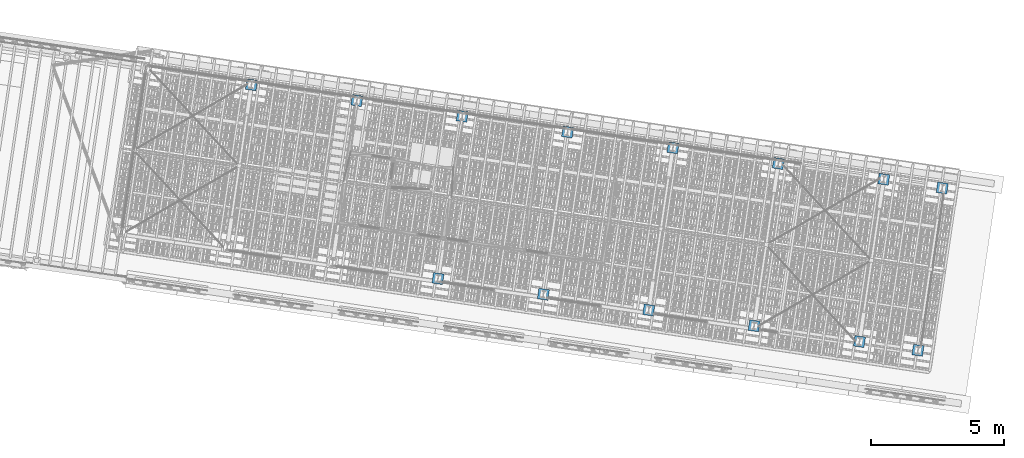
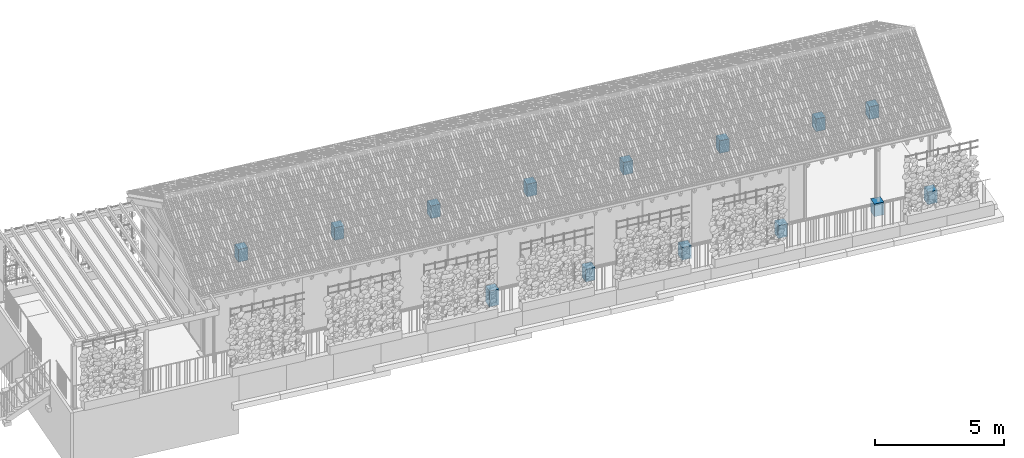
# One storey, part 6 of 128: 14 columns.
"""IFC4 building model written with IfcOpenShell, lengths in metres."""

from ifc_helpers import new_model, si_unit, direction, frame, origin_with_axes, place, context, subcontext, project, spatial, polyline, outline, extrude, material, element, save


model = new_model("IFC4")

# Units and contexts
model_context = context("Model", 3, precision=1e-05, world=origin_with_axes(), true_north=direction((0.0, 1.0)))
body_context = subcontext(model_context, "Body", "Model", "MODEL_VIEW")
ifc_project = project(units=[si_unit("VOLUMEUNIT", "CUBIC_METRE"), si_unit("LENGTHUNIT", "METRE"), si_unit("AREAUNIT", "SQUARE_METRE")], contexts=[model_context])

# Site, building, storey
site_placement = place(None, origin_with_axes())
site = spatial("IfcSite", under=ifc_project, at=site_placement, Name="Lares · Rua das Mercês · artigo 4771")
building_placement = place(site_placement, frame((15.0, 9.7, 13.9), z_axis=(0.0, 0.0, 1.0), x_axis=(0.989015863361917, -0.147809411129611, 0.0)))
building = spatial("IfcBuilding", under=site, at=building_placement, Name="Casa Sobreposta")
storey_placement = place(building_placement, origin_with_axes())
storey = spatial("IfcBuildingStorey", under=building, at=storey_placement, Name="00 · Habitação e estacionamento", Elevation=13.9)

# Columns
ifc_material = material(Name="Betão armado / Stahlbeton", Category="concrete")
column_1_placement = place(storey_placement, frame((0.0, 0.0, -0.6), z_axis=(0.0, 0.0, 1.0), x_axis=(1.0, 0.0, 0.0)))
element("IfcColumn", 1, at=column_1_placement, inside=storey, material=ifc_material, Name="Casa térrea · pedestal", context=body_context, shape_type="SweptSolid", body=[
    extrude(outline(polyline([(4.2, 6.08), (4.2, 6.48), (3.8, 6.48), (3.8, 6.08), (4.2, 6.08)])), origin_with_axes(), (0.0, 0.0, 1.0), 0.6),
])
column_2_placement = place(storey_placement, frame((0.0, 0.0, -0.6), z_axis=(0.0, 0.0, 1.0), x_axis=(1.0, 0.0, 0.0)))
element("IfcColumn", 2, at=column_2_placement, inside=storey, material=ifc_material, Name="Casa térrea · pedestal", context=body_context, shape_type="SweptSolid", body=[
    extrude(outline(polyline([(8.2, 6.08), (8.2, 6.48), (7.8, 6.48), (7.8, 6.08), (8.2, 6.08)])), origin_with_axes(), (0.0, 0.0, 1.0), 0.6),
])
column_3_placement = place(storey_placement, frame((0.0, 0.0, -0.75), z_axis=(0.0, 0.0, 1.0), x_axis=(1.0, 0.0, 0.0)))
element("IfcColumn", 3, at=column_3_placement, inside=storey, material=ifc_material, Name="Casa térrea · pedestal", context=body_context, shape_type="SweptSolid", body=[
    extrude(outline(polyline([(12.2, -0.08), (12.2, 0.32), (11.8, 0.32), (11.8, -0.08), (12.2, -0.08)])), origin_with_axes(), (0.0, 0.0, 1.0), 0.75),
])
column_4_placement = place(storey_placement, frame((0.0, 0.0, -0.6), z_axis=(0.0, 0.0, 1.0), x_axis=(1.0, 0.0, 0.0)))
element("IfcColumn", 4, at=column_4_placement, inside=storey, material=ifc_material, Name="Casa térrea · pedestal", context=body_context, shape_type="SweptSolid", body=[
    extrude(outline(polyline([(12.2, 6.08), (12.2, 6.48), (11.8, 6.48), (11.8, 6.08), (12.2, 6.08)])), origin_with_axes(), (0.0, 0.0, 1.0), 0.6),
])
column_5_placement = place(storey_placement, frame((0.0, 0.0, -0.6), z_axis=(0.0, 0.0, 1.0), x_axis=(1.0, 0.0, 0.0)))
element("IfcColumn", 5, at=column_5_placement, inside=storey, material=ifc_material, Name="Casa térrea · pedestal", context=body_context, shape_type="SweptSolid", body=[
    extrude(outline(polyline([(16.2, -0.08), (16.2, 0.32), (15.8, 0.32), (15.8, -0.08), (16.2, -0.08)])), origin_with_axes(), (0.0, 0.0, 1.0), 0.6),
])
column_6_placement = place(storey_placement, frame((0.0, 0.0, -0.6), z_axis=(0.0, 0.0, 1.0), x_axis=(1.0, 0.0, 0.0)))
element("IfcColumn", 6, at=column_6_placement, inside=storey, material=ifc_material, Name="Casa térrea · pedestal", context=body_context, shape_type="SweptSolid", body=[
    extrude(outline(polyline([(16.2, 6.08), (16.2, 6.48), (15.8, 6.48), (15.8, 6.08), (16.2, 6.08)])), origin_with_axes(), (0.0, 0.0, 1.0), 0.6),
])
column_7_placement = place(storey_placement, frame((0.0, 0.0, -0.6), z_axis=(0.0, 0.0, 1.0), x_axis=(1.0, 0.0, 0.0)))
element("IfcColumn", 7, at=column_7_placement, inside=storey, material=ifc_material, Name="Casa térrea · pedestal", context=body_context, shape_type="SweptSolid", body=[
    extrude(outline(polyline([(20.2, -0.08), (20.2, 0.32), (19.8, 0.32), (19.8, -0.08), (20.2, -0.08)])), origin_with_axes(), (0.0, 0.0, 1.0), 0.6),
])
column_8_placement = place(storey_placement, frame((0.0, 0.0, -0.6), z_axis=(0.0, 0.0, 1.0), x_axis=(1.0, 0.0, 0.0)))
element("IfcColumn", 8, at=column_8_placement, inside=storey, material=ifc_material, Name="Casa térrea · pedestal", context=body_context, shape_type="SweptSolid", body=[
    extrude(outline(polyline([(20.2, 6.08), (20.2, 6.48), (19.8, 6.48), (19.8, 6.08), (20.2, 6.08)])), origin_with_axes(), (0.0, 0.0, 1.0), 0.6),
])
column_9_placement = place(storey_placement, frame((0.0, 0.0, -0.6), z_axis=(0.0, 0.0, 1.0), x_axis=(1.0, 0.0, 0.0)))
element("IfcColumn", 9, at=column_9_placement, inside=storey, material=ifc_material, Name="Casa térrea · pedestal", context=body_context, shape_type="SweptSolid", body=[
    extrude(outline(polyline([(24.2, -0.08), (24.2, 0.32), (23.8, 0.32), (23.8, -0.08), (24.2, -0.08)])), origin_with_axes(), (0.0, 0.0, 1.0), 0.6),
])
column_10_placement = place(storey_placement, frame((0.0, 0.0, -0.6), z_axis=(0.0, 0.0, 1.0), x_axis=(1.0, 0.0, 0.0)))
element("IfcColumn", 10, at=column_10_placement, inside=storey, material=ifc_material, Name="Casa térrea · pedestal", context=body_context, shape_type="SweptSolid", body=[
    extrude(outline(polyline([(24.2, 6.08), (24.2, 6.48), (23.8, 6.48), (23.8, 6.08), (24.2, 6.08)])), origin_with_axes(), (0.0, 0.0, 1.0), 0.6),
])
column_11_placement = place(storey_placement, frame((0.0, 0.0, -0.6), z_axis=(0.0, 0.0, 1.0), x_axis=(1.0, 0.0, 0.0)))
element("IfcColumn", 11, at=column_11_placement, inside=storey, material=ifc_material, Name="Casa térrea · pedestal", context=body_context, shape_type="SweptSolid", body=[
    extrude(outline(polyline([(28.2, -0.08), (28.2, 0.32), (27.8, 0.32), (27.8, -0.08), (28.2, -0.08)])), origin_with_axes(), (0.0, 0.0, 1.0), 0.6),
])
column_12_placement = place(storey_placement, frame((0.0, 0.0, -0.6), z_axis=(0.0, 0.0, 1.0), x_axis=(1.0, 0.0, 0.0)))
element("IfcColumn", 12, at=column_12_placement, inside=storey, material=ifc_material, Name="Casa térrea · pedestal", context=body_context, shape_type="SweptSolid", body=[
    extrude(outline(polyline([(28.2, 6.08), (28.2, 6.48), (27.8, 6.48), (27.8, 6.08), (28.2, 6.08)])), origin_with_axes(), (0.0, 0.0, 1.0), 0.6),
])
column_13_placement = place(storey_placement, frame((0.0, 0.0, -0.6), z_axis=(0.0, 0.0, 1.0), x_axis=(1.0, 0.0, 0.0)))
element("IfcColumn", 13, at=column_13_placement, inside=storey, material=ifc_material, Name="Casa térrea · pedestal", context=body_context, shape_type="SweptSolid", body=[
    extrude(outline(polyline([(30.42, -0.08), (30.42, 0.32), (30.02, 0.32), (30.02, -0.08), (30.42, -0.08)])), origin_with_axes(), (0.0, 0.0, 1.0), 0.6),
])
column_14_placement = place(storey_placement, frame((0.0, 0.0, -0.6), z_axis=(0.0, 0.0, 1.0), x_axis=(1.0, 0.0, 0.0)))
element("IfcColumn", 14, at=column_14_placement, inside=storey, material=ifc_material, Name="Casa térrea · pedestal", context=body_context, shape_type="SweptSolid", body=[
    extrude(outline(polyline([(30.42, 6.08), (30.42, 6.48), (30.02, 6.48), (30.02, 6.08), (30.42, 6.08)])), origin_with_axes(), (0.0, 0.0, 1.0), 0.6),
])

save(model, "model.ifc")
